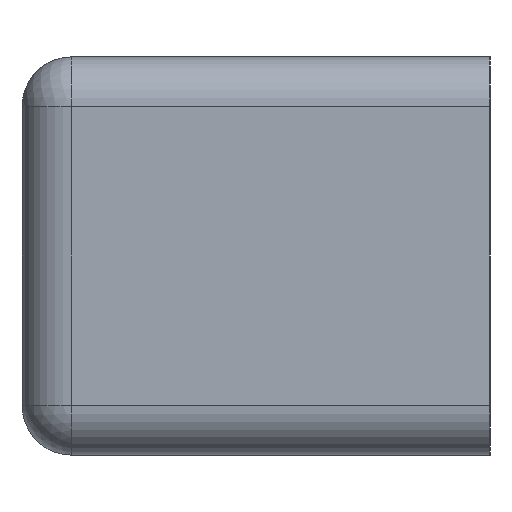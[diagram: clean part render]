
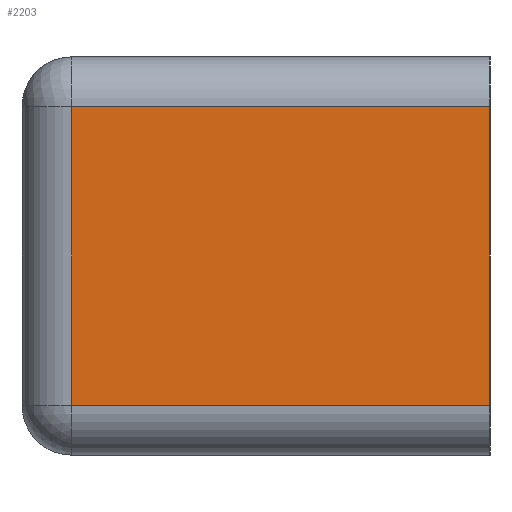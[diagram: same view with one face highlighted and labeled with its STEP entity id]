
A CAD part, left-side view. The second image highlights one B-rep face of the part: STEP entity #2203.
In plain terms, the highlighted planar face has unit normal (-1, 0, 0).
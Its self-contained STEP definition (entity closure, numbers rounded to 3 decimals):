
#270=PLANE('',#2457);
#394=FACE_OUTER_BOUND('',#528,.T.);
#528=EDGE_LOOP('',(#2053,#2054,#2055,#2056));
#636=LINE('',#4220,#790);
#650=LINE('',#4280,#804);
#652=LINE('',#4283,#806);
#657=LINE('',#4291,#811);
#790=VECTOR('',#2823,10.);
#804=VECTOR('',#2885,10.);
#806=VECTOR('',#2889,10.);
#811=VECTOR('',#2900,10.);
#1009=VERTEX_POINT('',#4217);
#1010=VERTEX_POINT('',#4219);
#1030=VERTEX_POINT('',#4268);
#1032=VERTEX_POINT('',#4276);
#1285=EDGE_CURVE('',#1010,#1009,#636,.T.);
#1316=EDGE_CURVE('',#1010,#1032,#650,.T.);
#1318=EDGE_CURVE('',#1032,#1030,#652,.T.);
#1323=EDGE_CURVE('',#1030,#1009,#657,.T.);
#2053=ORIENTED_EDGE('',*,*,#1316,.F.);
#2054=ORIENTED_EDGE('',*,*,#1285,.T.);
#2055=ORIENTED_EDGE('',*,*,#1323,.F.);
#2056=ORIENTED_EDGE('',*,*,#1318,.F.);
#2203=ADVANCED_FACE('',(#394),#270,.T.);
#2457=AXIS2_PLACEMENT_3D('',#4512,#3080,#3081);
#2823=DIRECTION('',(0.,0.,1.));
#2885=DIRECTION('',(0.,1.,0.));
#2889=DIRECTION('',(0.,0.,1.));
#2900=DIRECTION('',(0.,-1.,0.));
#3080=DIRECTION('center_axis',(-1.,0.,0.));
#3081=DIRECTION('ref_axis',(0.,-1.,0.));
#4217=CARTESIAN_POINT('',(-102.,-11.75,17.5));
#4219=CARTESIAN_POINT('',(-102.,-11.75,2.5));
#4220=CARTESIAN_POINT('',(-102.,-11.75,0.));
#4268=CARTESIAN_POINT('',(-102.,9.25,17.5));
#4276=CARTESIAN_POINT('',(-102.,9.25,2.5));
#4280=CARTESIAN_POINT('',(-102.,5.875,2.5));
#4283=CARTESIAN_POINT('',(-102.,9.25,0.));
#4291=CARTESIAN_POINT('',(-102.,5.875,17.5));
#4512=CARTESIAN_POINT('Origin',(-102.,11.75,0.));
